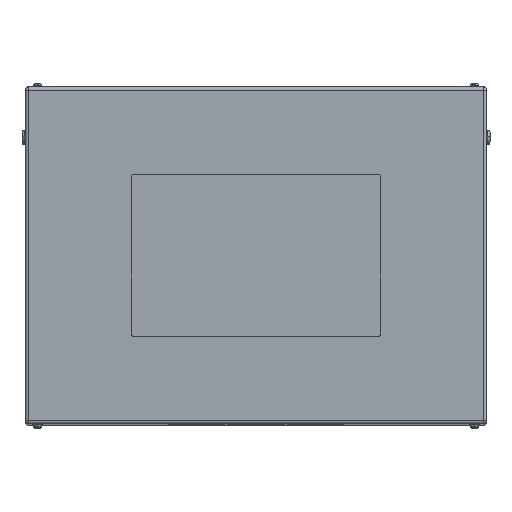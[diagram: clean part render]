
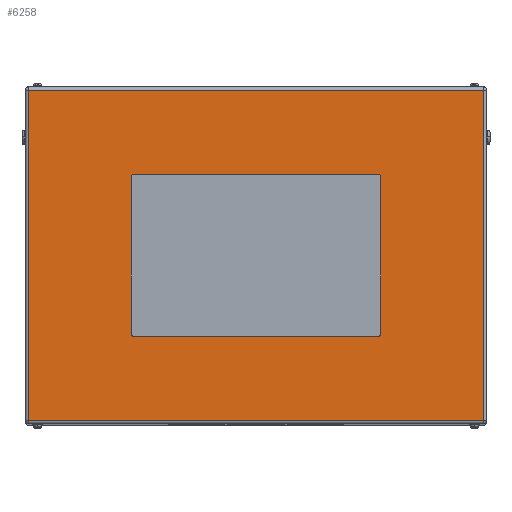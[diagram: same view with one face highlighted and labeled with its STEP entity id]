
A CAD part, top view. The second image highlights one B-rep face of the part: STEP entity #6258.
In plain terms, the highlighted planar face has unit normal (0, 0, 1).
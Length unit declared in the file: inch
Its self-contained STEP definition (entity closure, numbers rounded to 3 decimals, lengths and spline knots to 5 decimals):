
#77 = CARTESIAN_POINT ( 'NONE',  ( -9.75, -6.5, 29. ) ) ;
#79 = DIRECTION ( 'NONE',  ( 0., 1., 0. ) ) ;
#279 = DIRECTION ( 'NONE',  ( 0., 0., 1. ) ) ;
#341 = ORIENTED_EDGE ( 'NONE', *, *, #13134, .F. ) ;
#706 = VERTEX_POINT ( 'NONE', #16955 ) ;
#751 = DIRECTION ( 'NONE',  ( -1., 0., 0. ) ) ;
#980 = CARTESIAN_POINT ( 'NONE',  ( -10., 6.25, 29. ) ) ;
#1079 = CIRCLE ( 'NONE', #18330, 0.25 ) ;
#1088 = VECTOR ( 'NONE', #19592, 39.37008 ) ;
#1323 = FACE_BOUND ( 'NONE', #18316, .T. ) ;
#1377 = DIRECTION ( 'NONE',  ( 1., 0., 0. ) ) ;
#1418 = FACE_OUTER_BOUND ( 'NONE', #6168, .T. ) ;
#1445 = DIRECTION ( 'NONE',  ( 0., 0., 1. ) ) ;
#1482 = DIRECTION ( 'NONE',  ( 1., 0., 0. ) ) ;
#1517 = PLANE ( 'NONE',  #10103 ) ;
#2094 = LINE ( 'NONE', #77, #5569 ) ;
#2138 = ORIENTED_EDGE ( 'NONE', *, *, #8719, .F. ) ;
#2449 = ORIENTED_EDGE ( 'NONE', *, *, #13551, .T. ) ;
#2490 = CARTESIAN_POINT ( 'NONE',  ( -9.75, -6.25, 29. ) ) ;
#2815 = LINE ( 'NONE', #5949, #12466 ) ;
#2835 = CARTESIAN_POINT ( 'NONE',  ( -9.75, 6.5, 29. ) ) ;
#2903 = EDGE_CURVE ( 'NONE', #4177, #6342, #3581, .T. ) ;
#3518 = VERTEX_POINT ( 'NONE', #11632 ) ;
#3581 = CIRCLE ( 'NONE', #14729, 0.25 ) ;
#3609 = VECTOR ( 'NONE', #8919, 39.37008 ) ;
#4177 = VERTEX_POINT ( 'NONE', #10470 ) ;
#4629 = CARTESIAN_POINT ( 'NONE',  ( 9.75, -6.25, 29. ) ) ;
#4680 = CARTESIAN_POINT ( 'NONE',  ( -10., 6.25, 29. ) ) ;
#4867 = ORIENTED_EDGE ( 'NONE', *, *, #11350, .F. ) ;
#5482 = CIRCLE ( 'NONE', #7700, 0.25 ) ;
#5504 = LINE ( 'NONE', #9858, #14103 ) ;
#5569 = VECTOR ( 'NONE', #18396, 39.37008 ) ;
#5949 = CARTESIAN_POINT ( 'NONE',  ( 18.234, 13.5, 29. ) ) ;
#5957 = DIRECTION ( 'NONE',  ( 0., 0., -1. ) ) ;
#6168 = EDGE_LOOP ( 'NONE', ( #14245, #16385, #2449, #8045 ) ) ;
#6258 = ADVANCED_FACE ( 'NONE', ( #1323, #1418 ), #1517, .F. ) ;
#6291 = VECTOR ( 'NONE', #79, 39.37008 ) ;
#6342 = VERTEX_POINT ( 'NONE', #18615 ) ;
#6670 = VERTEX_POINT ( 'NONE', #10069 ) ;
#6686 = CARTESIAN_POINT ( 'NONE',  ( 18.5, 13.234, 29. ) ) ;
#6782 = CARTESIAN_POINT ( 'NONE',  ( -18.234, 13.234, 29. ) ) ;
#6843 = EDGE_CURVE ( 'NONE', #706, #9995, #15865, .T. ) ;
#6878 = CARTESIAN_POINT ( 'NONE',  ( 18.234, -13.234, 29. ) ) ;
#7122 = ORIENTED_EDGE ( 'NONE', *, *, #18383, .F. ) ;
#7552 = VECTOR ( 'NONE', #751, 39.37008 ) ;
#7700 = AXIS2_PLACEMENT_3D ( 'NONE', #17082, #15175, #1482 ) ;
#8045 = ORIENTED_EDGE ( 'NONE', *, *, #6843, .T. ) ;
#8288 = VECTOR ( 'NONE', #9299, 39.37008 ) ;
#8719 = EDGE_CURVE ( 'NONE', #6670, #3518, #15967, .T. ) ;
#8919 = DIRECTION ( 'NONE',  ( -1., 0., 0. ) ) ;
#9034 = CARTESIAN_POINT ( 'NONE',  ( 9.75, 6.25, 29. ) ) ;
#9121 = VERTEX_POINT ( 'NONE', #6878 ) ;
#9286 = LINE ( 'NONE', #15389, #6291 ) ;
#9299 = DIRECTION ( 'NONE',  ( 0., -1., 0. ) ) ;
#9501 = LINE ( 'NONE', #16801, #8288 ) ;
#9514 = CARTESIAN_POINT ( 'NONE',  ( 10., 6.25, 29. ) ) ;
#9633 = EDGE_CURVE ( 'NONE', #18594, #9121, #5504, .T. ) ;
#9858 = CARTESIAN_POINT ( 'NONE',  ( 18.234, -13.234, 29. ) ) ;
#9995 = VERTEX_POINT ( 'NONE', #6782 ) ;
#10069 = CARTESIAN_POINT ( 'NONE',  ( -10., -6.25, 29. ) ) ;
#10103 = AXIS2_PLACEMENT_3D ( 'NONE', #19631, #5957, #12072 ) ;
#10334 = DIRECTION ( 'NONE',  ( -1., 0., 0. ) ) ;
#10412 = CARTESIAN_POINT ( 'NONE',  ( -9.75, 6.5, 29. ) ) ;
#10470 = CARTESIAN_POINT ( 'NONE',  ( 9.75, -6.5, 29. ) ) ;
#10794 = DIRECTION ( 'NONE',  ( 1., 0., 0. ) ) ;
#10943 = ORIENTED_EDGE ( 'NONE', *, *, #2903, .F. ) ;
#11011 = ORIENTED_EDGE ( 'NONE', *, *, #13851, .F. ) ;
#11204 = VERTEX_POINT ( 'NONE', #9514 ) ;
#11350 = EDGE_CURVE ( 'NONE', #6342, #11204, #9286, .T. ) ;
#11632 = CARTESIAN_POINT ( 'NONE',  ( -9.75, -6.5, 29. ) ) ;
#11851 = DIRECTION ( 'NONE',  ( 0., 0., 1. ) ) ;
#11911 = ORIENTED_EDGE ( 'NONE', *, *, #15191, .F. ) ;
#12072 = DIRECTION ( 'NONE',  ( -1., 0., 0. ) ) ;
#12466 = VECTOR ( 'NONE', #18119, 39.37008 ) ;
#12610 = VERTEX_POINT ( 'NONE', #18529 ) ;
#13134 = EDGE_CURVE ( 'NONE', #15722, #6670, #19196, .T. ) ;
#13551 = EDGE_CURVE ( 'NONE', #9121, #706, #2815, .T. ) ;
#13851 = EDGE_CURVE ( 'NONE', #12610, #16986, #17641, .T. ) ;
#14103 = VECTOR ( 'NONE', #17383, 39.37008 ) ;
#14245 = ORIENTED_EDGE ( 'NONE', *, *, #17338, .T. ) ;
#14729 = AXIS2_PLACEMENT_3D ( 'NONE', #4629, #279, #10794 ) ;
#15175 = DIRECTION ( 'NONE',  ( 0., 0., 1. ) ) ;
#15191 = EDGE_CURVE ( 'NONE', #3518, #4177, #2094, .T. ) ;
#15389 = CARTESIAN_POINT ( 'NONE',  ( 10., 6.25, 29. ) ) ;
#15634 = EDGE_CURVE ( 'NONE', #11204, #12610, #1079, .T. ) ;
#15722 = VERTEX_POINT ( 'NONE', #4680 ) ;
#15865 = LINE ( 'NONE', #6686, #7552 ) ;
#15967 = CIRCLE ( 'NONE', #17885, 0.25 ) ;
#16385 = ORIENTED_EDGE ( 'NONE', *, *, #9633, .T. ) ;
#16801 = CARTESIAN_POINT ( 'NONE',  ( -18.234, 13.5, 29. ) ) ;
#16955 = CARTESIAN_POINT ( 'NONE',  ( 18.234, 13.234, 29. ) ) ;
#16986 = VERTEX_POINT ( 'NONE', #2835 ) ;
#17013 = ORIENTED_EDGE ( 'NONE', *, *, #15634, .F. ) ;
#17082 = CARTESIAN_POINT ( 'NONE',  ( -9.75, 6.25, 29. ) ) ;
#17338 = EDGE_CURVE ( 'NONE', #9995, #18594, #9501, .T. ) ;
#17383 = DIRECTION ( 'NONE',  ( 1., 0., 0. ) ) ;
#17641 = LINE ( 'NONE', #10412, #3609 ) ;
#17675 = CARTESIAN_POINT ( 'NONE',  ( -18.234, -13.234, 29. ) ) ;
#17885 = AXIS2_PLACEMENT_3D ( 'NONE', #2490, #11851, #1377 ) ;
#18119 = DIRECTION ( 'NONE',  ( 0., 1., 0. ) ) ;
#18316 = EDGE_LOOP ( 'NONE', ( #11911, #2138, #341, #7122, #11011, #17013, #4867, #10943 ) ) ;
#18330 = AXIS2_PLACEMENT_3D ( 'NONE', #9034, #1445, #10334 ) ;
#18383 = EDGE_CURVE ( 'NONE', #16986, #15722, #5482, .T. ) ;
#18396 = DIRECTION ( 'NONE',  ( 1., 0., 0. ) ) ;
#18529 = CARTESIAN_POINT ( 'NONE',  ( 9.75, 6.5, 29. ) ) ;
#18594 = VERTEX_POINT ( 'NONE', #17675 ) ;
#18615 = CARTESIAN_POINT ( 'NONE',  ( 10., -6.25, 29. ) ) ;
#19196 = LINE ( 'NONE', #980, #1088 ) ;
#19592 = DIRECTION ( 'NONE',  ( 0., -1., 0. ) ) ;
#19631 = CARTESIAN_POINT ( 'NONE',  ( 18.5, 13.5, 29. ) ) ;
